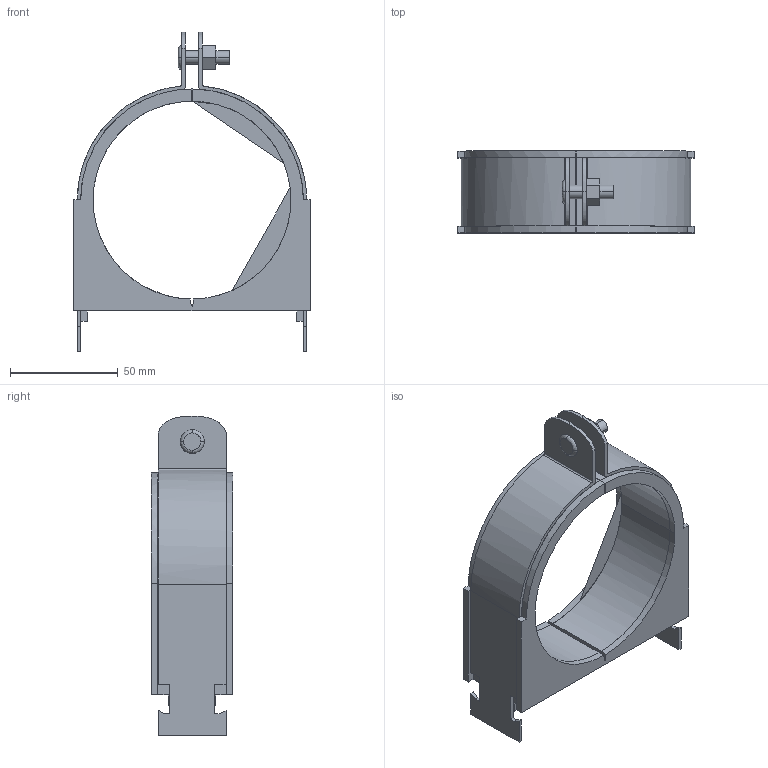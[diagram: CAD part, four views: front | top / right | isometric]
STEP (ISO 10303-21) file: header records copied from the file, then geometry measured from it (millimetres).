
FILE_DESCRIPTION(('TurboCAD Mac Pro'),'Build 980');
FILE_NAME('058N064.stp',' ',(''),(''),'ACIS Interop','IMSI','TurboCAD Mac Pro BY IMSI, INCORPORATED');
FILE_SCHEMA(('automotive_design'));
Length unit declared in the file: inch
Products named in the file (3): 1; 2; 3
Bounding box: 109.86 x 38.1 x 148.73 mm (x, y, z)
Volume: 131029.7 mm3; surface area: 56582 mm2
Topology: 3 solids, 3 shells, 149 faces, 392 edges, 254 vertices
Faces by surface type: plane 103, bspline 46
Entity records: 7170 total; most frequent: CARTESIAN_POINT 1770, ORIENTED_EDGE 784, DIRECTION 498, EDGE_CURVE 392, STYLED_ITEM 316, PRESENTATION_STYLE_ASSIGNMENT 316, COLOUR_RGB 316, LINE 278
